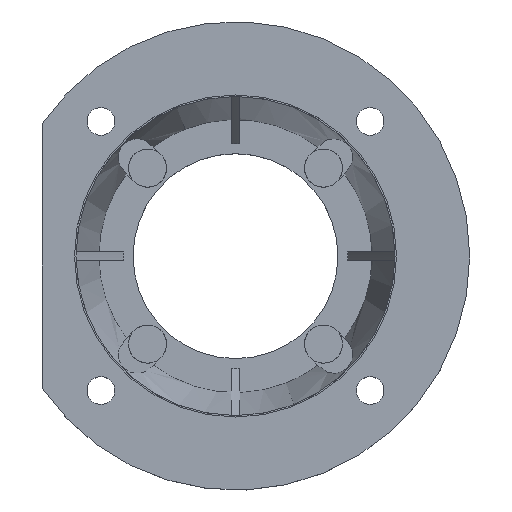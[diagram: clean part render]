
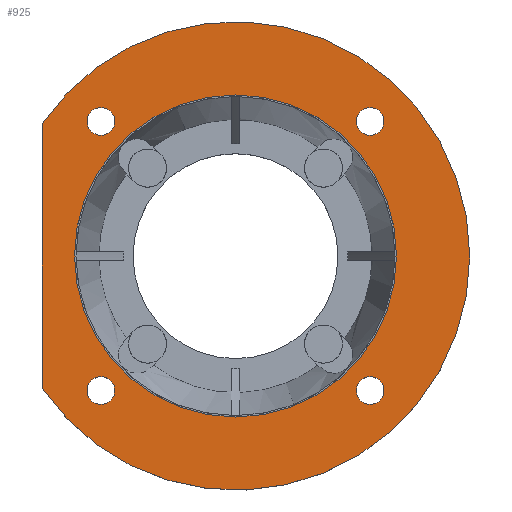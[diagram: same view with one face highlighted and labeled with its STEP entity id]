
A CAD part, top view. The second image highlights one B-rep face of the part: STEP entity #925.
In plain terms, the highlighted planar face has unit normal (0, 0, 1) as drawn and (1, 0, 0) by its records, which use the part's own axes.
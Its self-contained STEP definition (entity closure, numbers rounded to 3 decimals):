
#925=ADVANCED_FACE('',(#1050,#1040,#1041,#1042,#1043,#1044),#3030,.T.);
#1040=FACE_BOUND('',#1168,.T.);
#1041=FACE_BOUND('',#1169,.T.);
#1042=FACE_BOUND('',#1170,.T.);
#1043=FACE_BOUND('',#1171,.T.);
#1044=FACE_BOUND('',#1172,.T.);
#1050=FACE_OUTER_BOUND('',#1167,.T.);
#1167=EDGE_LOOP('',(#1342,#1343));
#1168=EDGE_LOOP('',(#1344,#1345));
#1169=EDGE_LOOP('',(#1346,#1347));
#1170=EDGE_LOOP('',(#1348,#1349));
#1171=EDGE_LOOP('',(#1350,#1351));
#1172=EDGE_LOOP('',(#1352,#1353));
#1342=ORIENTED_EDGE('',*,*,#1952,.F.);
#1343=ORIENTED_EDGE('',*,*,#1949,.F.);
#1344=ORIENTED_EDGE('',*,*,#2257,.F.);
#1345=ORIENTED_EDGE('',*,*,#2213,.F.);
#1346=ORIENTED_EDGE('',*,*,#2259,.F.);
#1347=ORIENTED_EDGE('',*,*,#2217,.F.);
#1348=ORIENTED_EDGE('',*,*,#2261,.F.);
#1349=ORIENTED_EDGE('',*,*,#2221,.F.);
#1350=ORIENTED_EDGE('',*,*,#2263,.F.);
#1351=ORIENTED_EDGE('',*,*,#2225,.F.);
#1352=ORIENTED_EDGE('',*,*,#2242,.F.);
#1353=ORIENTED_EDGE('',*,*,#2125,.F.);
#1949=EDGE_CURVE('',#2796,#2797,#2264,.T.);
#1952=EDGE_CURVE('',#2797,#2796,#2594,.T.);
#2125=EDGE_CURVE('',#2798,#2953,#2354,.T.);
#2213=EDGE_CURVE('',#2799,#2962,#2389,.T.);
#2217=EDGE_CURVE('',#2800,#2963,#2392,.T.);
#2221=EDGE_CURVE('',#2801,#2964,#2395,.T.);
#2225=EDGE_CURVE('',#2802,#2965,#2398,.T.);
#2242=EDGE_CURVE('',#2953,#2798,#2409,.T.);
#2257=EDGE_CURVE('',#2962,#2799,#2419,.T.);
#2259=EDGE_CURVE('',#2963,#2800,#2420,.T.);
#2261=EDGE_CURVE('',#2964,#2801,#2421,.T.);
#2263=EDGE_CURVE('',#2965,#2802,#2422,.T.);
#2264=TRIMMED_CURVE($,#2423,(#4590),(#4591),.T.,.CARTESIAN.);
#2354=TRIMMED_CURVE($,#2513,(#5220),(#5221),.T.,.CARTESIAN.);
#2389=TRIMMED_CURVE($,#2548,(#5479),(#5480),.T.,.CARTESIAN.);
#2392=TRIMMED_CURVE($,#2551,(#5490),(#5491),.T.,.CARTESIAN.);
#2395=TRIMMED_CURVE($,#2554,(#5501),(#5502),.T.,.CARTESIAN.);
#2398=TRIMMED_CURVE($,#2557,(#5512),(#5513),.T.,.CARTESIAN.);
#2409=TRIMMED_CURVE($,#2568,(#5557),(#5558),.T.,.CARTESIAN.);
#2419=TRIMMED_CURVE($,#2578,(#5597),(#5598),.T.,.CARTESIAN.);
#2420=TRIMMED_CURVE($,#2579,(#5602),(#5603),.T.,.CARTESIAN.);
#2421=TRIMMED_CURVE($,#2580,(#5607),(#5608),.T.,.CARTESIAN.);
#2422=TRIMMED_CURVE($,#2581,(#5612),(#5613),.T.,.CARTESIAN.);
#2423=CIRCLE('',#3347,80.);
#2513=CIRCLE('',#3437,55.);
#2548=CIRCLE('',#3472,4.75);
#2551=CIRCLE('',#3475,4.75);
#2554=CIRCLE('',#3478,4.75);
#2557=CIRCLE('',#3481,4.75);
#2568=CIRCLE('',#3492,55.);
#2578=CIRCLE('',#3502,4.75);
#2579=CIRCLE('',#3503,4.75);
#2580=CIRCLE('',#3504,4.75);
#2581=CIRCLE('',#3505,4.75);
#2594=B_SPLINE_CURVE_WITH_KNOTS('',1,(#4597,#4598),.UNSPECIFIED.,.F.,.F.,
(2,2),(-90.421,0.),.UNSPECIFIED.);
#2796=VERTEX_POINT('',#4397);
#2797=VERTEX_POINT('',#4398);
#2798=VERTEX_POINT('',#4399);
#2799=VERTEX_POINT('',#4400);
#2800=VERTEX_POINT('',#4401);
#2801=VERTEX_POINT('',#4402);
#2802=VERTEX_POINT('',#4403);
#2953=VERTEX_POINT('',#4554);
#2962=VERTEX_POINT('',#4563);
#2963=VERTEX_POINT('',#4564);
#2964=VERTEX_POINT('',#4565);
#2965=VERTEX_POINT('',#4566);
#3030=PLANE('',#3258);
#3258=AXIS2_PLACEMENT_3D('',#3929,#3514,$);
#3347=AXIS2_PLACEMENT_3D($,#4589,#3603,#3604);
#3437=AXIS2_PLACEMENT_3D($,#5219,#3783,#3784);
#3472=AXIS2_PLACEMENT_3D($,#5478,#3853,#3854);
#3475=AXIS2_PLACEMENT_3D($,#5489,#3859,#3860);
#3478=AXIS2_PLACEMENT_3D($,#5500,#3865,#3866);
#3481=AXIS2_PLACEMENT_3D($,#5511,#3871,#3872);
#3492=AXIS2_PLACEMENT_3D($,#5556,#3893,#3894);
#3502=AXIS2_PLACEMENT_3D($,#5596,#3913,#3914);
#3503=AXIS2_PLACEMENT_3D($,#5601,#3915,#3916);
#3504=AXIS2_PLACEMENT_3D($,#5606,#3917,#3918);
#3505=AXIS2_PLACEMENT_3D($,#5611,#3919,#3920);
#3514=DIRECTION('',(1.,0.,0.));
#3603=DIRECTION('',(-1.,0.,0.));
#3604=DIRECTION('',(0.,0.565,0.825));
#3783=DIRECTION('',(1.,0.,0.));
#3784=DIRECTION('',(0.,0.,-1.));
#3853=DIRECTION('',(1.,0.,0.));
#3854=DIRECTION('',(0.,0.,1.));
#3859=DIRECTION('',(1.,0.,0.));
#3860=DIRECTION('',(0.,0.,1.));
#3865=DIRECTION('',(1.,0.,0.));
#3866=DIRECTION('',(0.,0.,1.));
#3871=DIRECTION('',(1.,0.,0.));
#3872=DIRECTION('',(0.,0.,1.));
#3893=DIRECTION('',(1.,0.,0.));
#3894=DIRECTION('',(0.,0.,1.));
#3913=DIRECTION('',(1.,0.,0.));
#3914=DIRECTION('',(0.,0.,-1.));
#3915=DIRECTION('',(1.,0.,0.));
#3916=DIRECTION('',(0.,0.,-1.));
#3917=DIRECTION('',(1.,0.,0.));
#3918=DIRECTION('',(0.,0.,-1.));
#3919=DIRECTION('',(1.,0.,0.));
#3920=DIRECTION('',(0.,0.,-1.));
#3929=CARTESIAN_POINT('',(45.5,-112.698,-94.66));
#4397=CARTESIAN_POINT('',(45.5,45.211,66.));
#4398=CARTESIAN_POINT('',(45.5,-45.211,66.));
#4399=CARTESIAN_POINT('',(45.5,0.,-55.));
#4400=CARTESIAN_POINT('',(45.5,45.962,50.712));
#4401=CARTESIAN_POINT('',(45.5,45.962,-41.212));
#4402=CARTESIAN_POINT('',(45.5,-45.962,-41.212));
#4403=CARTESIAN_POINT('',(45.5,-45.962,50.712));
#4554=CARTESIAN_POINT('',(45.5,0.,55.));
#4563=CARTESIAN_POINT('',(45.5,45.962,41.212));
#4564=CARTESIAN_POINT('',(45.5,45.962,-50.712));
#4565=CARTESIAN_POINT('',(45.5,-45.962,-50.712));
#4566=CARTESIAN_POINT('',(45.5,-45.962,41.212));
#4589=CARTESIAN_POINT('',(45.5,0.,0.));
#4590=CARTESIAN_POINT('',(45.5,45.211,66.));
#4591=CARTESIAN_POINT('',(45.5,-45.211,66.));
#4597=CARTESIAN_POINT('',(45.5,-45.211,66.));
#4598=CARTESIAN_POINT('',(45.5,45.211,66.));
#5219=CARTESIAN_POINT('',(45.5,0.,0.));
#5220=CARTESIAN_POINT('',(45.5,0.,-55.));
#5221=CARTESIAN_POINT('',(45.5,0.,55.));
#5478=CARTESIAN_POINT('',(45.5,45.962,45.962));
#5479=CARTESIAN_POINT('',(45.5,45.962,50.712));
#5480=CARTESIAN_POINT('',(45.5,45.962,41.212));
#5489=CARTESIAN_POINT('',(45.5,45.962,-45.962));
#5490=CARTESIAN_POINT('',(45.5,45.962,-41.212));
#5491=CARTESIAN_POINT('',(45.5,45.962,-50.712));
#5500=CARTESIAN_POINT('',(45.5,-45.962,-45.962));
#5501=CARTESIAN_POINT('',(45.5,-45.962,-41.212));
#5502=CARTESIAN_POINT('',(45.5,-45.962,-50.712));
#5511=CARTESIAN_POINT('',(45.5,-45.962,45.962));
#5512=CARTESIAN_POINT('',(45.5,-45.962,50.712));
#5513=CARTESIAN_POINT('',(45.5,-45.962,41.212));
#5556=CARTESIAN_POINT('',(45.5,0.,0.));
#5557=CARTESIAN_POINT('',(45.5,0.,55.));
#5558=CARTESIAN_POINT('',(45.5,0.,-55.));
#5596=CARTESIAN_POINT('',(45.5,45.962,45.962));
#5597=CARTESIAN_POINT('',(45.5,45.962,41.212));
#5598=CARTESIAN_POINT('',(45.5,45.962,50.712));
#5601=CARTESIAN_POINT('',(45.5,45.962,-45.962));
#5602=CARTESIAN_POINT('',(45.5,45.962,-50.712));
#5603=CARTESIAN_POINT('',(45.5,45.962,-41.212));
#5606=CARTESIAN_POINT('',(45.5,-45.962,-45.962));
#5607=CARTESIAN_POINT('',(45.5,-45.962,-50.712));
#5608=CARTESIAN_POINT('',(45.5,-45.962,-41.212));
#5611=CARTESIAN_POINT('',(45.5,-45.962,45.962));
#5612=CARTESIAN_POINT('',(45.5,-45.962,41.212));
#5613=CARTESIAN_POINT('',(45.5,-45.962,50.712));
